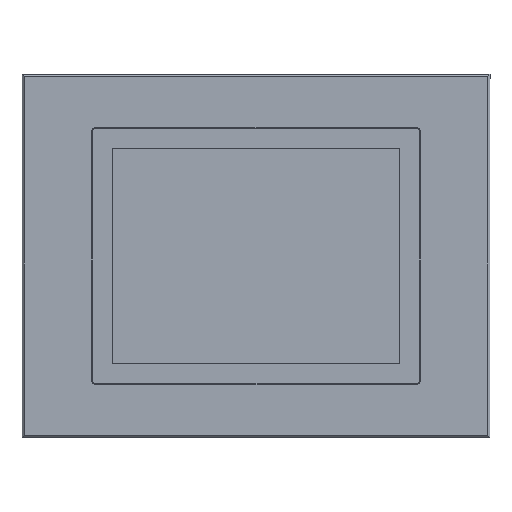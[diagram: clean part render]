
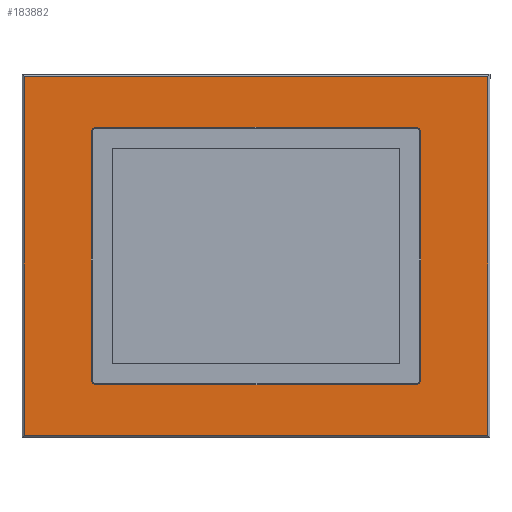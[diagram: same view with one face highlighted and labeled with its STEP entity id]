
A CAD part, top view. The second image highlights one B-rep face of the part: STEP entity #183882.
In plain terms, the highlighted planar face has unit normal (0, 0, 1).
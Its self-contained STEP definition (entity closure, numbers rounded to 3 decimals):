
#2967=FACE_BOUND('',#28732,.T.);
#9918=CIRCLE('',#197129,3.6);
#9919=CIRCLE('',#197130,3.6);
#9920=CIRCLE('',#197131,3.6);
#9921=CIRCLE('',#197132,3.6);
#18719=FACE_OUTER_BOUND('',#28731,.T.);
#28731=EDGE_LOOP('',(#153168,#153169,#153170,#153171));
#28732=EDGE_LOOP('',(#153172,#153173,#153174,#153175,#153176,#153177,#153178,
#153179));
#46390=LINE('',#307946,#65084);
#46391=LINE('',#307950,#65085);
#46392=LINE('',#307954,#65086);
#46393=LINE('',#307958,#65087);
#46470=LINE('',#308209,#65164);
#46471=LINE('',#308211,#65165);
#46472=LINE('',#308213,#65166);
#46473=LINE('',#308214,#65167);
#65084=VECTOR('',#239239,10.);
#65085=VECTOR('',#239242,10.);
#65086=VECTOR('',#239245,10.);
#65087=VECTOR('',#239248,10.);
#65164=VECTOR('',#239501,10.);
#65165=VECTOR('',#239502,10.);
#65166=VECTOR('',#239503,10.);
#65167=VECTOR('',#239504,10.);
#81640=VERTEX_POINT('',#307944);
#81641=VERTEX_POINT('',#307945);
#81642=VERTEX_POINT('',#307947);
#81643=VERTEX_POINT('',#307949);
#81644=VERTEX_POINT('',#307951);
#81645=VERTEX_POINT('',#307953);
#81646=VERTEX_POINT('',#307955);
#81647=VERTEX_POINT('',#307957);
#81732=VERTEX_POINT('',#308207);
#81733=VERTEX_POINT('',#308208);
#81734=VERTEX_POINT('',#308210);
#81735=VERTEX_POINT('',#308212);
#105693=EDGE_CURVE('',#81640,#81641,#46390,.T.);
#105694=EDGE_CURVE('',#81640,#81642,#9918,.T.);
#105695=EDGE_CURVE('',#81643,#81642,#46391,.T.);
#105696=EDGE_CURVE('',#81643,#81644,#9919,.T.);
#105697=EDGE_CURVE('',#81645,#81644,#46392,.T.);
#105698=EDGE_CURVE('',#81645,#81646,#9920,.T.);
#105699=EDGE_CURVE('',#81647,#81646,#46393,.T.);
#105700=EDGE_CURVE('',#81647,#81641,#9921,.T.);
#105821=EDGE_CURVE('',#81732,#81733,#46470,.T.);
#105822=EDGE_CURVE('',#81734,#81732,#46471,.T.);
#105823=EDGE_CURVE('',#81735,#81734,#46472,.T.);
#105824=EDGE_CURVE('',#81733,#81735,#46473,.T.);
#153168=ORIENTED_EDGE('',*,*,#105821,.F.);
#153169=ORIENTED_EDGE('',*,*,#105822,.F.);
#153170=ORIENTED_EDGE('',*,*,#105823,.F.);
#153171=ORIENTED_EDGE('',*,*,#105824,.F.);
#153172=ORIENTED_EDGE('',*,*,#105693,.T.);
#153173=ORIENTED_EDGE('',*,*,#105700,.F.);
#153174=ORIENTED_EDGE('',*,*,#105699,.T.);
#153175=ORIENTED_EDGE('',*,*,#105698,.F.);
#153176=ORIENTED_EDGE('',*,*,#105697,.T.);
#153177=ORIENTED_EDGE('',*,*,#105696,.F.);
#153178=ORIENTED_EDGE('',*,*,#105695,.T.);
#153179=ORIENTED_EDGE('',*,*,#105694,.F.);
#165878=PLANE('',#197219);
#183882=ADVANCED_FACE('',(#18719,#2967),#165878,.T.);
#197129=AXIS2_PLACEMENT_3D('',#307948,#239240,#239241);
#197130=AXIS2_PLACEMENT_3D('',#307952,#239243,#239244);
#197131=AXIS2_PLACEMENT_3D('',#307956,#239246,#239247);
#197132=AXIS2_PLACEMENT_3D('',#307959,#239249,#239250);
#197219=AXIS2_PLACEMENT_3D('',#308206,#239499,#239500);
#239239=DIRECTION('',(0.,1.,0.));
#239240=DIRECTION('center_axis',(0.,0.,
1.));
#239241=DIRECTION('ref_axis',(-0.707,-0.707,0.));
#239242=DIRECTION('',(-1.,0.,0.));
#239243=DIRECTION('center_axis',(0.,0.,
1.));
#239244=DIRECTION('ref_axis',(0.707,-0.707,0.));
#239245=DIRECTION('',(0.,-1.,0.));
#239246=DIRECTION('center_axis',(0.,0.,
1.));
#239247=DIRECTION('ref_axis',(0.707,0.707,0.));
#239248=DIRECTION('',(1.,0.,0.));
#239249=DIRECTION('center_axis',(0.,0.,
1.));
#239250=DIRECTION('ref_axis',(-0.707,0.707,0.));
#239499=DIRECTION('center_axis',(0.,0.,
1.));
#239500=DIRECTION('ref_axis',(1.,0.,0.));
#239501=DIRECTION('',(1.,0.,0.));
#239502=DIRECTION('',(0.,1.,0.));
#239503=DIRECTION('',(-1.,0.,0.));
#239504=DIRECTION('',(0.,-1.,0.));
#307944=CARTESIAN_POINT('',(-140.6,-106.25,6.));
#307945=CARTESIAN_POINT('',(-140.6,106.25,6.));
#307946=CARTESIAN_POINT('',(-140.6,-54.925,6.));
#307947=CARTESIAN_POINT('',(-137.,-109.85,6.));
#307948=CARTESIAN_POINT('Origin',(-137.,-106.25,6.));
#307949=CARTESIAN_POINT('',(137.,-109.85,6.));
#307950=CARTESIAN_POINT('',(70.3,-109.85,6.));
#307951=CARTESIAN_POINT('',(140.6,-106.25,6.));
#307952=CARTESIAN_POINT('Origin',(137.,-106.25,6.));
#307953=CARTESIAN_POINT('',(140.6,106.25,6.));
#307954=CARTESIAN_POINT('',(140.6,54.925,6.));
#307955=CARTESIAN_POINT('',(137.,109.85,6.));
#307956=CARTESIAN_POINT('Origin',(137.,106.25,6.));
#307957=CARTESIAN_POINT('',(-137.,109.85,6.));
#307958=CARTESIAN_POINT('',(-70.3,109.85,6.));
#307959=CARTESIAN_POINT('Origin',(-137.,106.25,6.));
#308206=CARTESIAN_POINT('Origin',(0.,0.,
6.));
#308207=CARTESIAN_POINT('',(-198.,153.15,6.));
#308208=CARTESIAN_POINT('',(198.,153.15,6.));
#308209=CARTESIAN_POINT('',(100.,153.15,6.));
#308210=CARTESIAN_POINT('',(-198.,-153.15,6.));
#308211=CARTESIAN_POINT('',(-198.,77.575,6.));
#308212=CARTESIAN_POINT('',(198.,-153.15,6.));
#308213=CARTESIAN_POINT('',(-100.,-153.15,6.));
#308214=CARTESIAN_POINT('',(198.,-77.575,6.));
